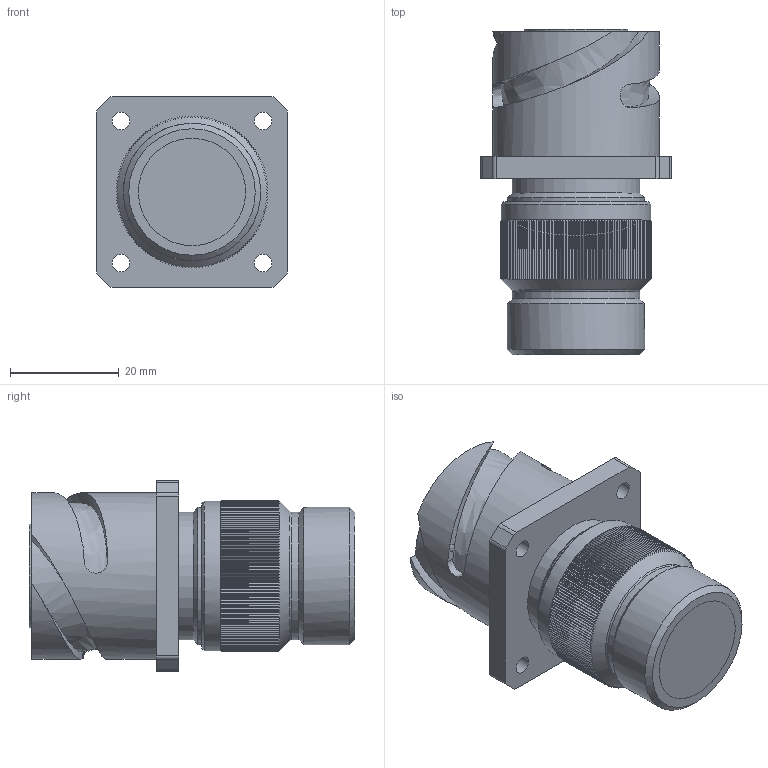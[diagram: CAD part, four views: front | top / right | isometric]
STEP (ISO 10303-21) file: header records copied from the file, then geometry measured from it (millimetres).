
FILE_DESCRIPTION (( 'STEP AP203' ), '1' );
FILE_NAME ('GT00F-18-1S.step', '2018-08-20T15:56:09', ( '' ), ( '' ), 'SwSTEP 2.0', 'SolidWorks 2017', '' );
FILE_SCHEMA (( 'CONFIG_CONTROL_DESIGN' ));
Length unit declared in the file: millimetre
Products named in the file (1): GT00F-18-1S
Bounding box: 35.2 x 60 x 35.2 mm (x, y, z)
Volume: 35295 mm3; surface area: 11578.9 mm2
Topology: 1 solids, 1 shells, 726 faces, 2145 edges, 1428 vertices
Faces by surface type: plane 516, cone 170, cylinder 24, bspline 15, torus 1
Full cylindrical faces by diameter (mm): 3.25 x4, 19 x1, 23.5 x2, 24 x1, 25.25 x1, 25.3 x1, 27.55 x1, 30.75 x1
Entity records: 28024 total; most frequent: CARTESIAN_POINT 9753, ORIENTED_EDGE 4240, DIRECTION 3206, EDGE_CURVE 2120, VERTEX_POINT 1422, AXIS2_PLACEMENT_3D 1087, VECTOR 1032, LINE 1032
